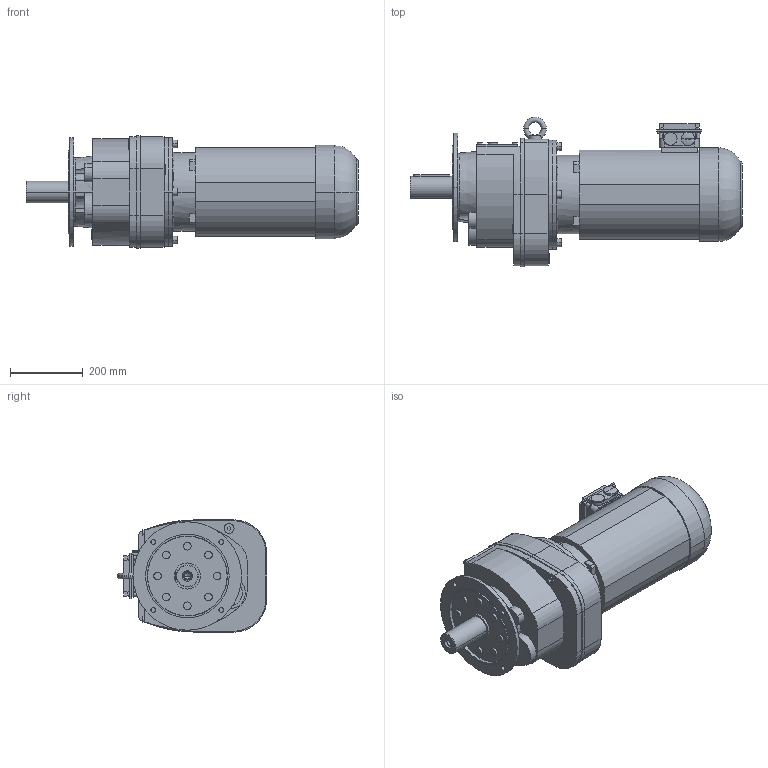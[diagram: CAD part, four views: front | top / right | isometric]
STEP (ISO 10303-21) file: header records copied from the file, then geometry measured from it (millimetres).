
FILE_DESCRIPTION(('STEP AP214'),'1');
FILE_NAME('STEP-File.stp','2018-01-01T00:00:00',(' '),('KEB'),' ','KEB-DRIVE',' ');
FILE_SCHEMA(('AUTOMOTIVE_DESIGN { 1 0 10303 214 1 1 1 1 }'));
Length unit declared in the file: millimetre
Products named in the file (10): g6b; w6_we_60x120; c6_300; ca6; dm132_kkn; kk10; PLUG_M32; SCREW-PLUG_M32; ndm132; G63C DM132SB4§CAD13
Assembly tree (9 placements, depth 2):
  G63C DM132SB4§CAD13
    g6b
    w6_we_60x120
    c6_300
    ca6
    dm132_kkn
    kk10
    PLUG_M32
    SCREW-PLUG_M32
    ndm132
Bounding box: 914 x 411.5 x 309 mm (x, y, z)
Volume: 46156786.2 mm3; surface area: 1486035.3 mm2
Topology: 9 solids, 9 shells, 379 faces, 920 edges, 606 vertices
Faces by surface type: plane 202, cylinder 135, cone 24, torus 18
Entity records: 12523 total; most frequent: CARTESIAN_POINT 3663, ORIENTED_EDGE 1836, DIRECTION 1679, EDGE_CURVE 918, VERTEX_POINT 606, AXIS2_PLACEMENT_3D 587, VECTOR 505, LINE 505
